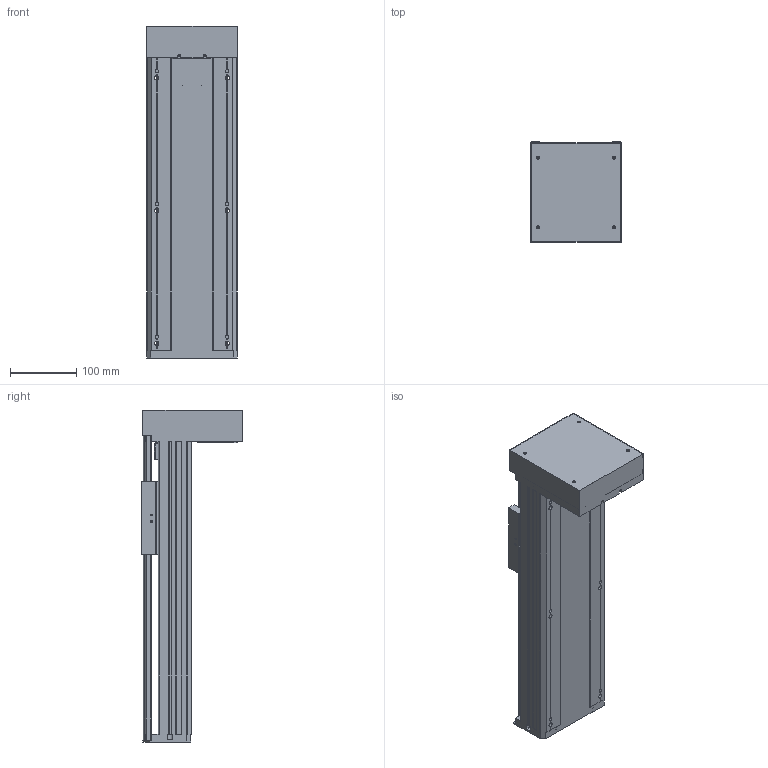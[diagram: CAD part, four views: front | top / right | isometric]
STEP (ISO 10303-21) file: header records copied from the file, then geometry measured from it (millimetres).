
FILE_DESCRIPTION(/* description */ (''),/* implementation_level */ '2;1');
FILE_NAME(/* name */ 'TKA136-FD-250_asm1.stp',/* time_stamp */ '2016-05-07T09:14:00+08:00',/* author */ (''),/* organization */ (''),/* preprocessor_version */ 'ST-DEVELOPER v15',/* originating_system */ 'SIEMENS PLM Software NX 8.5',/* authorisation */ '');
FILE_SCHEMA (('AUTOMOTIVE_DESIGN { 1 0 10303 214 3 1 1 1 }'));
Length unit declared in the file: millimetre
Products named in the file (3): 100-02; 100-01; TKA136-FD-250_asm1
Assembly tree (2 placements, depth 2):
  TKA136-FD-250_asm1
    100-01
    100-02
Bounding box: 136 x 152 x 500 mm (x, y, z)
Volume: 1835645.4 mm3; surface area: 710284.7 mm2
Topology: 2 solids, 13 shells, 896 faces, 2445 edges, 1573 vertices
Faces by surface type: plane 418, cylinder 413, cone 65
Full cylindrical faces by diameter (mm): 3 x2, 3.3 x13, 4 x4, 4.2 x8, 4.5 x14, 5 x6, 5.5 x26, 6.6 x10, 8 x12, 10 x9, 10.5 x6, 11 x4, 11.6 x1, 12 x9, 15 x3, 16 x5, 17 x1, 24 x5, 26 x1, 28 x1, 46 x1, 50 x2
Entity records: 29466 total; most frequent: CARTESIAN_POINT 7406, DIRECTION 4660, ORIENTED_EDGE 4310, EDGE_CURVE 2155, AXIS2_PLACEMENT_3D 1759, VERTEX_POINT 1496, EDGE_LOOP 1256, LINE 1142
